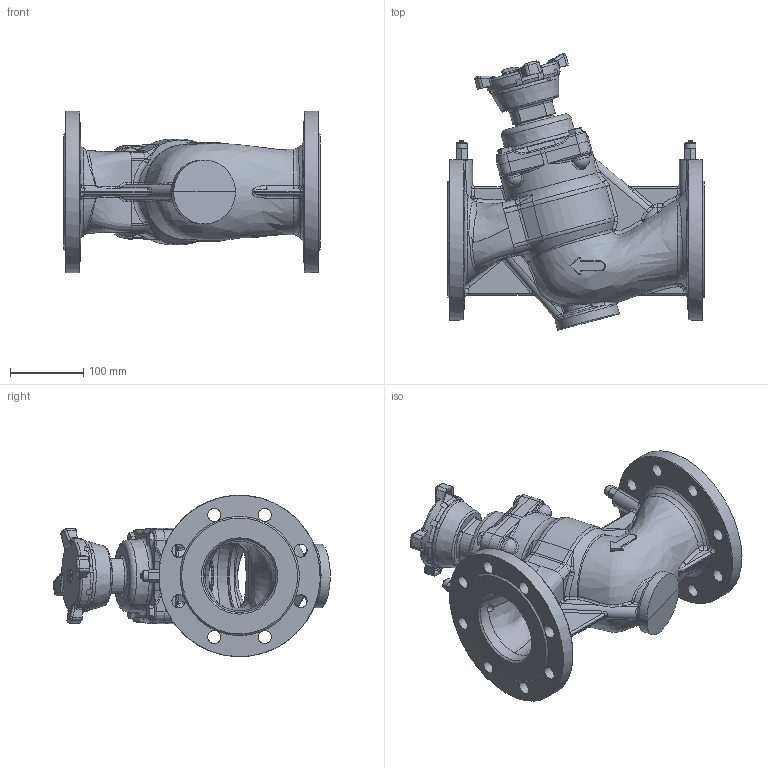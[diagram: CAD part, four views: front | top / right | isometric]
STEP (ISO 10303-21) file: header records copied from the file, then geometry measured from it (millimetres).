
FILE_DESCRIPTION (( 'STEP AP203' ), '1' );
FILE_NAME ('EKOFLUX.S_DN100.STEP', '2013-01-17T12:25:08', ( 'luca.saino' ), ( 'Hewlett-Packard Company' ), 'SwSTEP 2.0', 'SolidWorks 2012', '' );
FILE_SCHEMA (( 'CONFIG_CONTROL_DESIGN' ));
Length unit declared in the file: millimetre
Products named in the file (1): EKOFLUX.S_DN100
Bounding box: 350 x 377.2 x 219.87 mm (x, y, z)
Volume: 4315834.3 mm3; surface area: 539086.4 mm2
Topology: 1 solids, 14 shells, 1459 faces, 3625 edges, 2124 vertices
Faces by surface type: bspline 565, cylinder 312, plane 288, cone 137, torus 126, sphere 31
Full cylindrical faces by diameter (mm): 5 x2, 6.5 x2, 8 x2, 8.5 x2, 10 x7, 11 x4, 13.157 x2, 14.95 x2, 15 x2, 18 x17, 48 x1, 87 x1, 100 x1, 100.2 x1, 102 x1, 106.5 x1, 130 x1
Entity records: 80945 total; most frequent: CARTESIAN_POINT 51663, ORIENTED_EDGE 6838, DIRECTION 5094, EDGE_CURVE 3419, AXIS2_PLACEMENT_3D 2237, VERTEX_POINT 2051, EDGE_LOOP 1602, FACE_OUTER_BOUND 1516
